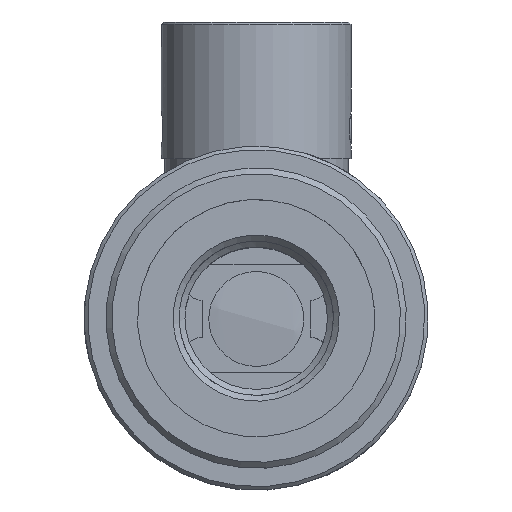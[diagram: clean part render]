
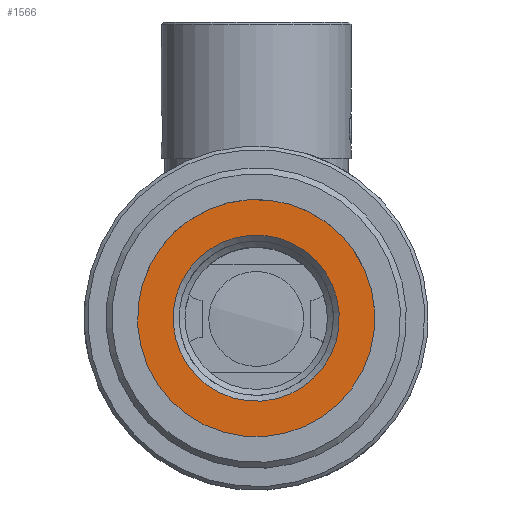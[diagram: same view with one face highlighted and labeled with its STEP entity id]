
A CAD part, top view. The second image highlights one B-rep face of the part: STEP entity #1566.
In plain terms, the highlighted planar face has unit normal (0, 0, 1).
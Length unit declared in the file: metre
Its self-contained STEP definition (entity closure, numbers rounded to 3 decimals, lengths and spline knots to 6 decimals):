
#1566=ADVANCED_FACE('NONE',(#4138,#4139),#4140,.F.);
#2848=EDGE_CURVE('NONE',#6041,#6041,#6042,.T.);
#2850=EDGE_CURVE('NONE',#6044,#6044,#6045,.T.);
#4138=FACE_OUTER_BOUND('',#7581,.T.);
#4139=FACE_BOUND('',#7582,.T.);
#4140=PLANE('',#7583);
#6041=VERTEX_POINT('',#10713);
#6042=CIRCLE('',#10714,0.01);
#6044=VERTEX_POINT('',#10717);
#6045=CIRCLE('',#10718,0.007);
#7581=EDGE_LOOP('',(#13715));
#7582=EDGE_LOOP('',(#13716));
#7583=AXIS2_PLACEMENT_3D('',#13717,#13718,#13719);
#10713=CARTESIAN_POINT('',(0.004595,0.004702,0.0294));
#10714=AXIS2_PLACEMENT_3D('',#16015,#16016,#16017);
#10717=CARTESIAN_POINT('',(0.004799,0.001709,0.0294));
#10718=AXIS2_PLACEMENT_3D('',#16018,#16019,#16020);
#13715=ORIENTED_EDGE('',*,*,#2848,.F.);
#13716=ORIENTED_EDGE('',*,*,#2850,.T.);
#13717=CARTESIAN_POINT('',(0.015252,-0.004595,0.0294));
#13718=DIRECTION('',(0.,0.0,-1.0));
#13719=DIRECTION('',(0.0,-1.0,0.0));
#16015=CARTESIAN_POINT('',(0.005275,-0.005275,0.0294));
#16016=DIRECTION('',(0.,0.,-1.0));
#16017=DIRECTION('',(-0.068,0.998,0.));
#16018=CARTESIAN_POINT('',(0.005275,-0.005275,0.0294));
#16019=DIRECTION('',(0.,0.,-1.0));
#16020=DIRECTION('',(-0.068,0.998,0.));
